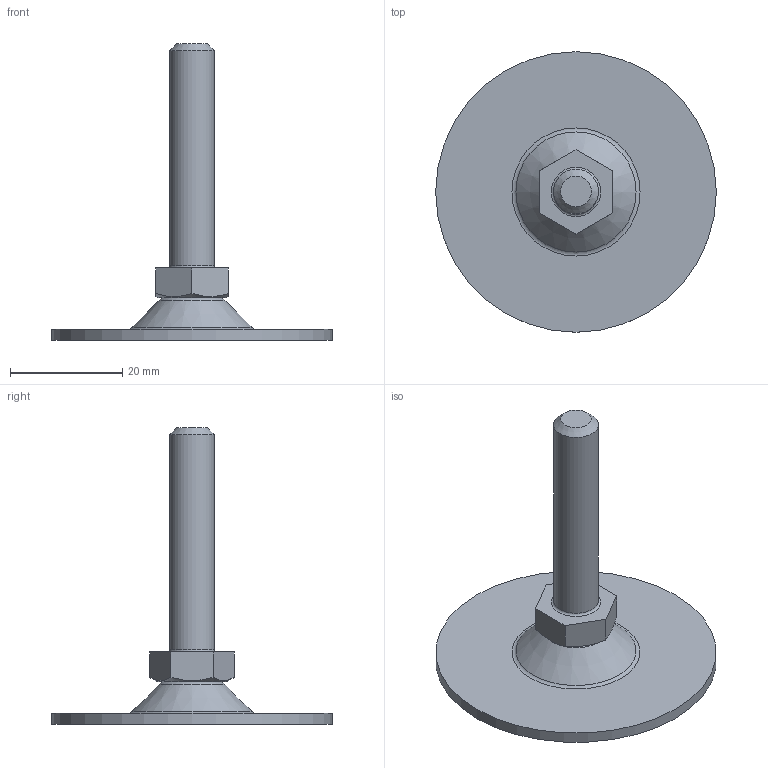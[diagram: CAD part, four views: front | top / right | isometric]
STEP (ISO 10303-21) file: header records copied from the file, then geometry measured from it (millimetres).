
FILE_DESCRIPTION(('STEP AP203'), '1');
FILE_NAME('A00050.1050816', '', ('UNSPECIFIED'), ('UNSPECIFIED'), 'C3D Converter', 'C3D Toolkit', '');
FILE_SCHEMA(('CONFIG_CONTROL_DESIGN'));
Length unit declared in the file: millimetre
Products named in the file (4): A00050.1050840; A00050.1050
Assembly tree (3 placements, depth 2):
  A00050.1050840
    A00050.1050
    (unnamed)
    (unnamed)
Bounding box: 50 x 50 x 52.92 mm (x, y, z)
Volume: 6932.5 mm3; surface area: 6386.7 mm2
Topology: 3 solids, 3 shells, 58 faces, 130 edges, 82 vertices
Faces by surface type: plane 28, torus 8, bspline 8, cone 7, cylinder 6, sphere 1
Full cylindrical faces by diameter (mm): 3.3 x1, 4 x1, 4.5 x1, 8 x2, 50 x1
Entity records: 2171 total; most frequent: CARTESIAN_POINT 784, DIRECTION 242, ORIENTED_EDGE 214, EDGE_CURVE 107, AXIS2_PLACEMENT_3D 95, EDGE_LOOP 86, VERTEX_POINT 81, ADVANCED_FACE 58
